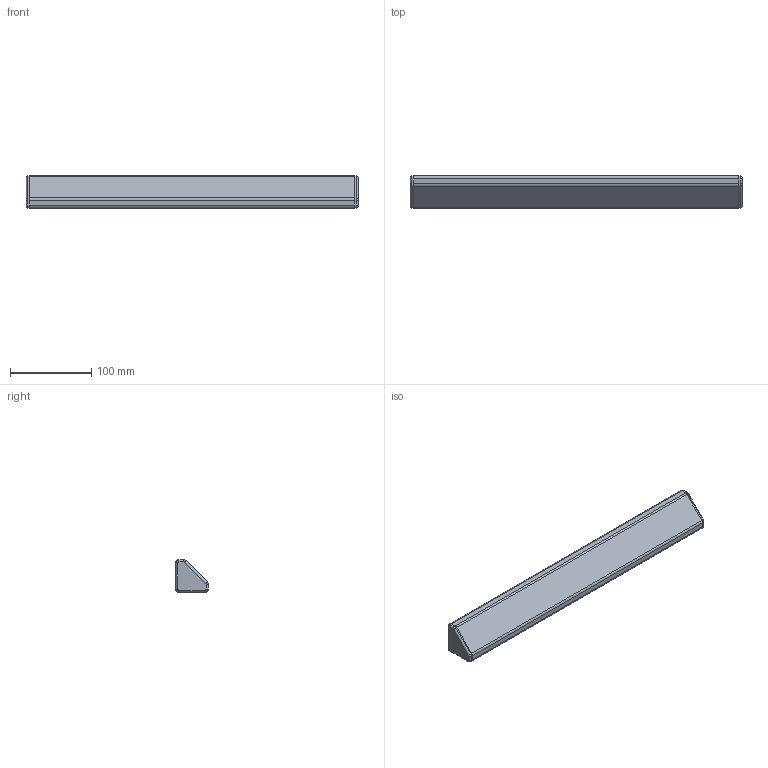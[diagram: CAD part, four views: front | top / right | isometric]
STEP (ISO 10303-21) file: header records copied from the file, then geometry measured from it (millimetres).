
FILE_DESCRIPTION(/* description */ (''),/* implementation_level */ '2;1');
FILE_NAME(/* name */ 'LA-6007-2040-A.stp',/* time_stamp */ '2015-01-28T11:27:43+00:00',/* author */ (''),/* organization */ (''),/* preprocessor_version */ 'ST-DEVELOPER v11',/* originating_system */ 'SIEMENS PLM Software NX 7.5',/* authorisation */ '');
FILE_SCHEMA (('AUTOMOTIVE_DESIGN { 1 0 10303 214 1 1 1 1 }'));
Length unit declared in the file: millimetre
Products named in the file (1): rt13982Avlbt
Bounding box: 408 x 40 x 40 mm (x, y, z)
Volume: 484272.5 mm3; surface area: 58320 mm2
Topology: 1 solids, 1 shells, 56 faces, 122 edges, 68 vertices
Faces by surface type: plane 19, cylinder 15, bspline 12, cone 10
Entity records: 1964 total; most frequent: CARTESIAN_POINT 439, DIRECTION 256, ORIENTED_EDGE 244, EDGE_CURVE 122, AXIS2_PLACEMENT_3D 95, VERTEX_POINT 68, LINE 66, VECTOR 66
